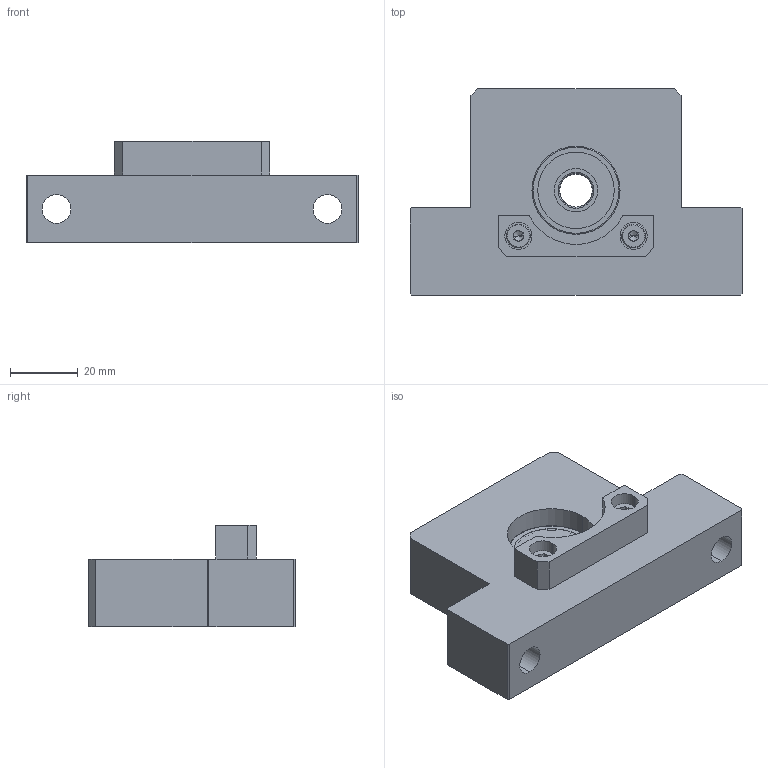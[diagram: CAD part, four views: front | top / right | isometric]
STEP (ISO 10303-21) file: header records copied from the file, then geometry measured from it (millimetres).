
FILE_DESCRIPTION (( 'STEP AP214' ), '1' );
FILE_NAME ('F-SBU-12.60-D-REV1.STEP', '2023-04-12T05:44:09', ( '' ), ( '' ), 'SwSTEP 2.0', 'SolidWorks 2021', '' );
FILE_SCHEMA (( 'AUTOMOTIVE_DESIGN' ));
Length unit declared in the file: millimetre
Products named in the file (11): 6000ZZ Ball; 6000ZZ Outer ring; F-SBU-12.60-D-REV1; 6000ZZ Shield2; F-SBU-12-DAMPER; 6000ZZ Shield1; 6000ZZ Inner ring; F-SBU-12.60-D BODY; 6000ZZ; STWN10; 4-10
Assembly tree (23 placements, depth 3):
  F-SBU-12.60-D-REV1
    F-SBU-12.60-D BODY
    STWN10
    6000ZZ
      6000ZZ Shield2
      6000ZZ Ball  x13
      6000ZZ Inner ring
      6000ZZ Shield1
      6000ZZ Outer ring
    F-SBU-12-DAMPER
    4-10  x2
Bounding box: 98 x 61 x 30 mm (x, y, z)
Volume: 86563.1 mm3; surface area: 24976.2 mm2
Topology: 22 solids, 22 shells, 207 faces, 502 edges, 317 vertices
Faces by surface type: plane 77, cylinder 66, sphere 26, cone 20, torus 18
Entity records: 4997 total; most frequent: DIRECTION 883, CARTESIAN_POINT 753, ORIENTED_EDGE 698, AXIS2_PLACEMENT_3D 351, EDGE_CURVE 349, VERTEX_POINT 221, EDGE_LOOP 188, VECTOR 181
